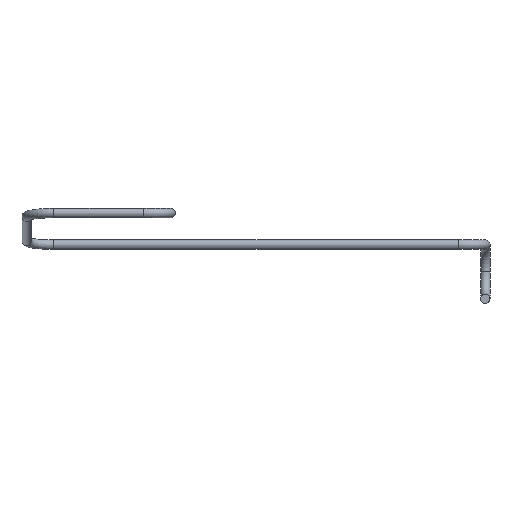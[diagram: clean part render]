
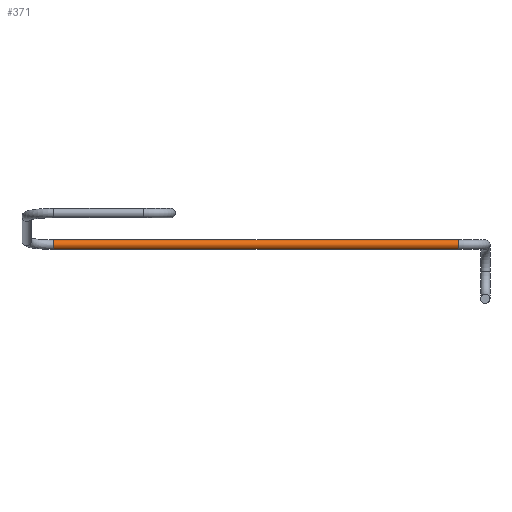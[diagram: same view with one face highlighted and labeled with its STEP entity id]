
A CAD part, left-side view. The second image highlights one B-rep face of the part: STEP entity #371.
In plain terms, the highlighted cylindrical face has radius 0.525 mm (diameter 1.05 mm), a full revolution.
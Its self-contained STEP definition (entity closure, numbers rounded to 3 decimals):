
#305 = TOROIDAL_SURFACE('',#306,3.,0.525);
#306 = AXIS2_PLACEMENT_3D('',#307,#308,#309);
#307 = CARTESIAN_POINT('',(7.,-30.04,-11.15));
#308 = DIRECTION('',(-0.,-0.,-1.));
#309 = DIRECTION('',(0.,-1.,0.));
#322 = VERTEX_POINT('',#323);
#323 = CARTESIAN_POINT('',(4.,-30.04,-11.675));
#344 = EDGE_CURVE('',#322,#322,#345,.T.);
#345 = SURFACE_CURVE('',#346,(#351,#358),.PCURVE_S1.);
#346 = CIRCLE('',#347,0.525);
#347 = AXIS2_PLACEMENT_3D('',#348,#349,#350);
#348 = CARTESIAN_POINT('',(4.,-30.04,-11.15));
#349 = DIRECTION('',(0.,-1.,0.));
#350 = DIRECTION('',(-1.,0.,0.));
#351 = PCURVE('',#305,#352);
#352 = DEFINITIONAL_REPRESENTATION('',(#353),#357);
#353 = LINE('',#354,#355);
#354 = CARTESIAN_POINT('',(1.571,0.));
#355 = VECTOR('',#356,1.);
#356 = DIRECTION('',(0.,1.));
#357 = ( GEOMETRIC_REPRESENTATION_CONTEXT(2) 
PARAMETRIC_REPRESENTATION_CONTEXT() REPRESENTATION_CONTEXT('2D SPACE',''
  ) );
#358 = PCURVE('',#359,#364);
#359 = CYLINDRICAL_SURFACE('',#360,0.525);
#360 = AXIS2_PLACEMENT_3D('',#361,#362,#363);
#361 = CARTESIAN_POINT('',(4.,-30.04,-11.15));
#362 = DIRECTION('',(0.,1.,0.));
#363 = DIRECTION('',(0.,0.,-1.));
#364 = DEFINITIONAL_REPRESENTATION('',(#365),#368);
#365 = B_SPLINE_CURVE_WITH_KNOTS('',1,(#366,#367),.UNSPECIFIED.,.F.,.F.,
  (2,2),(1.571,7.854),.PIECEWISE_BEZIER_KNOTS.);
#366 = CARTESIAN_POINT('',(6.283,0.));
#367 = CARTESIAN_POINT('',(0.,0.));
#368 = ( GEOMETRIC_REPRESENTATION_CONTEXT(2) 
PARAMETRIC_REPRESENTATION_CONTEXT() REPRESENTATION_CONTEXT('2D SPACE',''
  ) );
#371 = ADVANCED_FACE('',(#372),#359,.T.);
#372 = FACE_BOUND('',#373,.T.);
#373 = EDGE_LOOP('',(#374,#396,#422,#423));
#374 = ORIENTED_EDGE('',*,*,#375,.T.);
#375 = EDGE_CURVE('',#322,#376,#378,.T.);
#376 = VERTEX_POINT('',#377);
#377 = CARTESIAN_POINT('',(4.,15.,-11.675));
#378 = SEAM_CURVE('',#379,(#383,#389),.PCURVE_S1.);
#379 = LINE('',#380,#381);
#380 = CARTESIAN_POINT('',(4.,-30.04,-11.675));
#381 = VECTOR('',#382,1.);
#382 = DIRECTION('',(0.,1.,0.));
#383 = PCURVE('',#359,#384);
#384 = DEFINITIONAL_REPRESENTATION('',(#385),#388);
#385 = B_SPLINE_CURVE_WITH_KNOTS('',1,(#386,#387),.UNSPECIFIED.,.F.,.F.,
  (2,2),(0.,45.04),.PIECEWISE_BEZIER_KNOTS.);
#386 = CARTESIAN_POINT('',(6.283,0.));
#387 = CARTESIAN_POINT('',(6.283,45.04));
#388 = ( GEOMETRIC_REPRESENTATION_CONTEXT(2) 
PARAMETRIC_REPRESENTATION_CONTEXT() REPRESENTATION_CONTEXT('2D SPACE',''
  ) );
#389 = PCURVE('',#359,#390);
#390 = DEFINITIONAL_REPRESENTATION('',(#391),#395);
#391 = LINE('',#392,#393);
#392 = CARTESIAN_POINT('',(0.,0.));
#393 = VECTOR('',#394,1.);
#394 = DIRECTION('',(0.,1.));
#395 = ( GEOMETRIC_REPRESENTATION_CONTEXT(2) 
PARAMETRIC_REPRESENTATION_CONTEXT() REPRESENTATION_CONTEXT('2D SPACE',''
  ) );
#396 = ORIENTED_EDGE('',*,*,#397,.F.);
#397 = EDGE_CURVE('',#376,#376,#398,.T.);
#398 = SURFACE_CURVE('',#399,(#404,#411),.PCURVE_S1.);
#399 = CIRCLE('',#400,0.525);
#400 = AXIS2_PLACEMENT_3D('',#401,#402,#403);
#401 = CARTESIAN_POINT('',(4.,15.,-11.15));
#402 = DIRECTION('',(0.,1.,0.));
#403 = DIRECTION('',(0.,0.,-1.));
#404 = PCURVE('',#359,#405);
#405 = DEFINITIONAL_REPRESENTATION('',(#406),#410);
#406 = LINE('',#407,#408);
#407 = CARTESIAN_POINT('',(0.,45.04));
#408 = VECTOR('',#409,1.);
#409 = DIRECTION('',(1.,0.));
#410 = ( GEOMETRIC_REPRESENTATION_CONTEXT(2) 
PARAMETRIC_REPRESENTATION_CONTEXT() REPRESENTATION_CONTEXT('2D SPACE',''
  ) );
#411 = PCURVE('',#412,#417);
#412 = TOROIDAL_SURFACE('',#413,3.,0.525);
#413 = AXIS2_PLACEMENT_3D('',#414,#415,#416);
#414 = CARTESIAN_POINT('',(1.029,15.,-10.732));
#415 = DIRECTION('',(0.139,0.,0.99));
#416 = DIRECTION('',(0.99,0.,-0.139)
  );
#417 = DEFINITIONAL_REPRESENTATION('',(#418),#421);
#418 = B_SPLINE_CURVE_WITH_KNOTS('',1,(#419,#420),.UNSPECIFIED.,.F.,.F.,
  (2,2),(0.,6.283),.PIECEWISE_BEZIER_KNOTS.);
#419 = CARTESIAN_POINT('',(0.,11.135));
#420 = CARTESIAN_POINT('',(0.,4.852));
#421 = ( GEOMETRIC_REPRESENTATION_CONTEXT(2) 
PARAMETRIC_REPRESENTATION_CONTEXT() REPRESENTATION_CONTEXT('2D SPACE',''
  ) );
#422 = ORIENTED_EDGE('',*,*,#375,.F.);
#423 = ORIENTED_EDGE('',*,*,#344,.F.);
